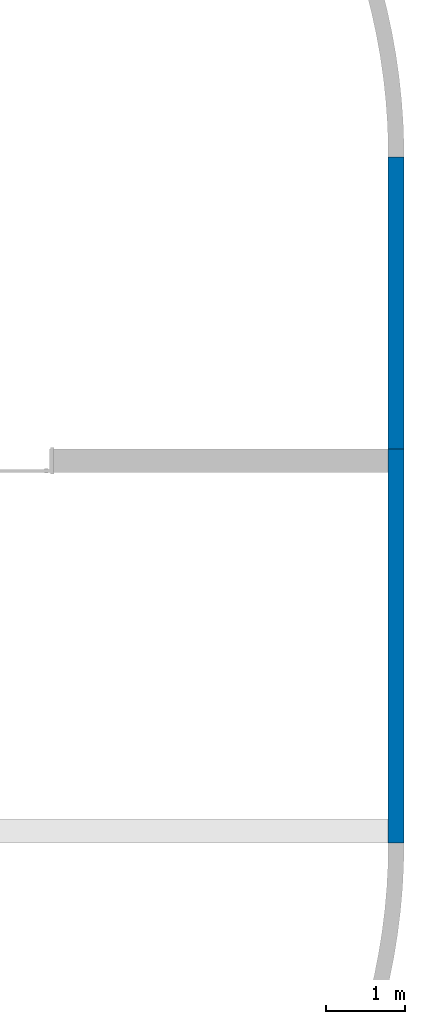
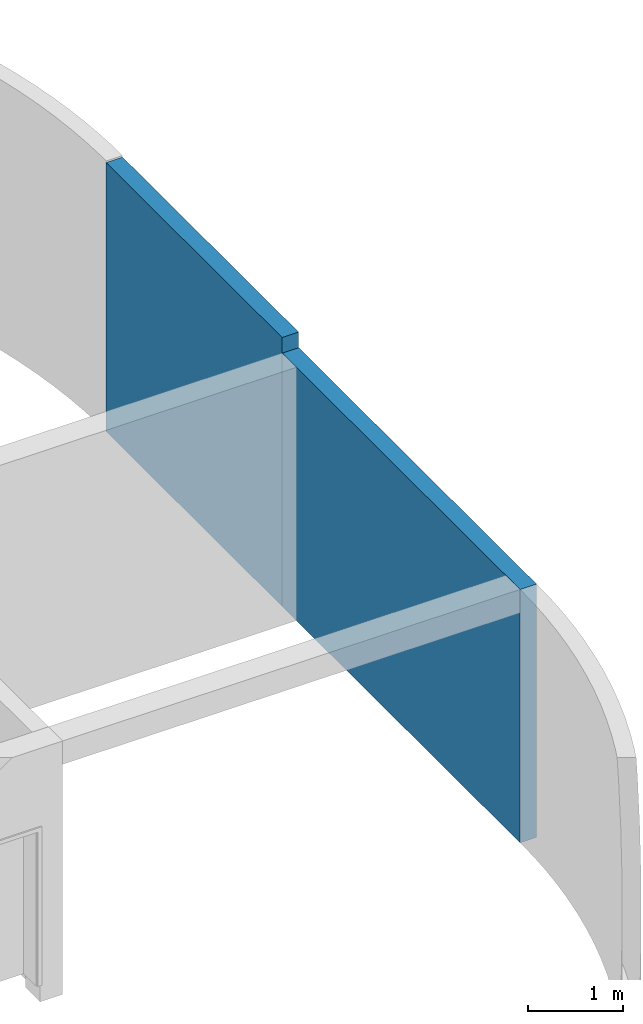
# One storey, part 8 of 8: 2 walls.
"""IFC4 building model written with IfcOpenShell, lengths in millimetres."""

from ifc_helpers import new_model, entity, si_unit, converted_unit, derived_unit, direction, frame, origin_with_axes, place, context, subcontext, project, spatial, polygons, material, constituent, constituent_set, type_object, element, save


model = new_model("IFC4")

# Units and contexts
model_context = context("Model", 3, precision=0.01, world=origin_with_axes(), true_north=direction((0.0, 1.0)))
body_context = subcontext(model_context, "Body", "Model", "MODEL_VIEW")
ifc_project = project(units=[si_unit("LENGTHUNIT", "METRE", prefix="MILLI"), si_unit("AREAUNIT", "SQUARE_METRE"), si_unit("VOLUMEUNIT", "CUBIC_METRE"), converted_unit("PLANEANGLEUNIT", "DEGREE", entity("IfcPlaneAngleMeasure", 0.0174532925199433), si_unit("PLANEANGLEUNIT", "RADIAN"), dimensions=[0, 0, 0, 0, 0, 0, 0]), converted_unit("TIMEUNIT", "Year", entity("IfcTimeMeasure", 31557600.0), si_unit("TIMEUNIT", "SECOND"), dimensions=[0, 0, 1, 0, 0, 0, 0]), si_unit("MASSUNIT", "GRAM", prefix="KILO"), si_unit("THERMODYNAMICTEMPERATUREUNIT", "DEGREE_CELSIUS"), si_unit("LUMINOUSINTENSITYUNIT", "LUMEN"), si_unit("ENERGYUNIT", "JOULE", prefix="MEGA"), derived_unit("THERMALCONDUCTANCEUNIT", [(si_unit("POWERUNIT", "WATT"), 1), (si_unit("LENGTHUNIT", "METRE"), -1), (si_unit("THERMODYNAMICTEMPERATUREUNIT", "KELVIN"), -1)]), derived_unit("SPECIFICHEATCAPACITYUNIT", [(si_unit("ENERGYUNIT", "JOULE"), 1), (si_unit("MASSUNIT", "GRAM", prefix="KILO"), -1), (si_unit("THERMODYNAMICTEMPERATUREUNIT", "KELVIN"), -1)]), derived_unit("MASSDENSITYUNIT", [(si_unit("MASSUNIT", "GRAM", prefix="KILO"), 1), (si_unit("VOLUMEUNIT", "CUBIC_METRE"), -1)])], contexts=[model_context])

# Site, building, storey
site_placement = place(None, origin_with_axes())
site = spatial("IfcSite", under=ifc_project, at=site_placement, Name="Exteriér", CompositionType="ELEMENT")
building_placement = place(site_placement, origin_with_axes())
building = spatial("IfcBuilding", under=site, at=building_placement, Name="Univerzitní lezecké centrum", CompositionType="ELEMENT")
storey_placement = place(building_placement, frame((0.0, 0.0, -3350.0), z_axis=(0.0, 0.0, 1.0), x_axis=(1.0, 0.0, 0.0)))
storey = spatial("IfcBuildingStorey", under=building, at=storey_placement, Name="1.PP", CompositionType="ELEMENT", Elevation=-3350.0)

# Walls
ifc_material = material(Name="Beton vyztužený - vnější svislé kce")
ifc_constituent_1 = constituent(ifc_material, Name="Beton vyztužený - vnější svislé kce")
ifc_constituent_set_1 = constituent_set(constituents=[ifc_constituent_1], Name="!Vnější betonová stěna 200 mm")
wall_type = type_object("IfcWallType", Name="!Vnější betonová stěna 200 mm 200", PredefinedType="NOTDEFINED")
wall_1_placement = place(storey_placement, frame((10449.85164885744, 4699.99999999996, -220.0000000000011), z_axis=(0.0, 0.0, 1.0), x_axis=(0.0, -1.0, 0.0)))
element("IfcWall", 1, at=wall_1_placement, inside=storey, type_object=wall_type, material=ifc_constituent_set_1, Name="St02", PredefinedType="NOTDEFINED", context=body_context, shape_type="Tessellation", body=[
    polygons([(0.0, 0.0, 3250.000000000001), (4999.999999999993, 0.0, 3250.000000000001), (4999.999999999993, 199.9999999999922, 3250.000000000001), (0.0, 200.0000000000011, 3250.000000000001), (0.0, 0.0, 0.0), (4999.999999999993, 0.0, 0.0), (4999.999999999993, 199.9999999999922, 0.0), (0.0, 199.9999999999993, 0.0)], [[[1, 2, 3, 4]], [[5, 6, 2, 1]], [[3, 2, 6, 7]], [[4, 3, 7, 8]], [[5, 1, 4, 8]], [[8, 7, 6, 5]]], closed=True),
])
ifc_constituent_2 = constituent(ifc_material, Name="Beton vyztužený - vnější svislé kce")
ifc_constituent_set_2 = constituent_set(constituents=[ifc_constituent_2], Name="!Vnější betonová stěna 200 mm")
wall_2_placement = place(storey_placement, frame((10449.85164885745, 8399.999999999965, -220.0000000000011), z_axis=(0.0, 0.0, 1.0), x_axis=(0.0, -1.0, 0.0)))
element("IfcWall", 2, at=wall_2_placement, inside=storey, type_object=wall_type, material=ifc_constituent_set_2, Name="St02", PredefinedType="NOTDEFINED", context=body_context, shape_type="Tessellation", body=[
    polygons([(3700.000000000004, 0.0, 3250.000000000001), (3700.000000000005, 200.0000000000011, 3250.000000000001), (3700.000000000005, 199.9999999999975, 3450.000000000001), (3700.000000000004, 0.0, 3450.000000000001), (3700.000000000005, 199.9999999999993, 0.0), (3700.000000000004, 0.0, 0.0), (0.0, 199.9999999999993, 0.0), (0.0, 200.0000000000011, 3450.000000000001), (0.0, 0.0, 3450.000000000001), (0.0, 0.0, 0.0)], [[[1, 2, 3, 4]], [[5, 2, 1, 6]], [[2, 5, 7, 8, 3]], [[9, 4, 3, 8]], [[6, 1, 4, 9, 10]], [[5, 6, 10, 7]], [[7, 10, 9, 8]]], closed=True),
])

save(model, "model.ifc")
